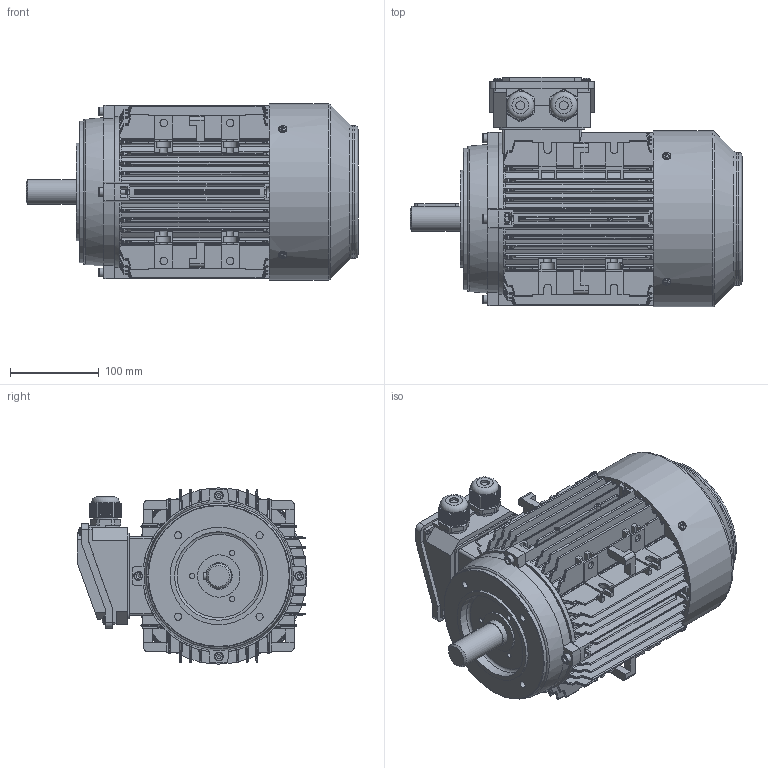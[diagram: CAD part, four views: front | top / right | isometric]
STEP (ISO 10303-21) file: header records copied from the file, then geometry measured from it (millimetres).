
FILE_DESCRIPTION(/* description */ ('02-IP55-Aluminium-IE1_IE2_IE3-100-B14'),/* implementation_level */ '2;1');
FILE_NAME(/* name */ 'H:\BESTANDEN\121 - OMEC\1603 - TA serie\1603 - Gereed\02-IP55-Aluminium-IE1_IE2_IE3-100-B14.stp',/* time_stamp */ '2016-06-06T12:43:05+02:00',/* author */ ('Freek'),/* organization */ (''),/* preprocessor_version */ 'ST-DEVELOPER v15.6',/* originating_system */ 'Autodesk Inventor 2015',/* authorisation */ '');
FILE_SCHEMA (('AUTOMOTIVE_DESIGN { 1 0 10303 214 3 1 1 }'));
Products named in the file (1): 1603-114
Bounding box: 375 x 259.6 x 199 mm (x, y, z)
Volume: 8653214.6 mm3; surface area: 670094.7 mm2
Topology: 3 solids, 12 shells, 3141 faces, 8144 edges, 5179 vertices
Faces by surface type: plane 1700, cylinder 616, bspline 387, cone 232, torus 146, sphere 60
Full cylindrical faces by diameter (mm): 2 x1, 3 x4, 4 x1, 4.567 x5, 5 x14, 6 x9, 6.5 x4, 8 x4, 8.5 x4, 10 x7, 23 x2, 28 x3, 30 x1, 31 x2, 47.8 x2, 100 x1, 110 x1, 150 x1, 160 x1, 199 x1
Entity records: 111280 total; most frequent: CARTESIAN_POINT 35324, ORIENTED_EDGE 15952, DIRECTION 13799, EDGE_CURVE 7968, VERTEX_POINT 5137, AXIS2_PLACEMENT_3D 4692, LINE 4415, VECTOR 4415
